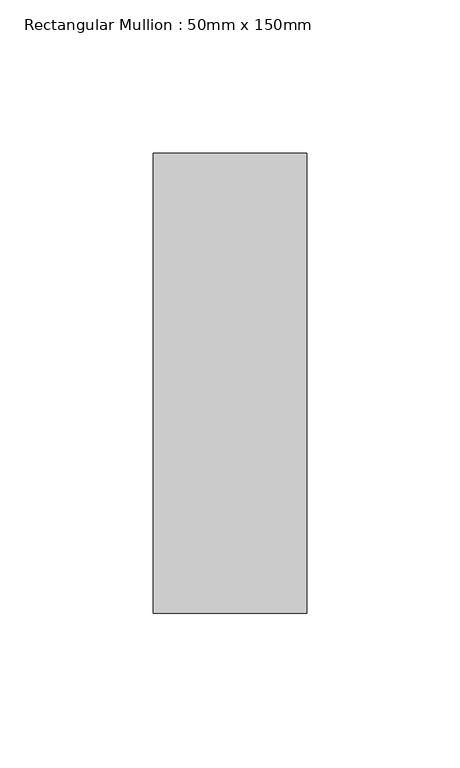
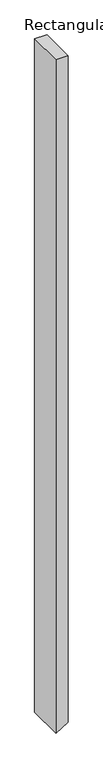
"""IFC4 building model written with IfcOpenShell, lengths in millimetres: member geometry, Rectangular Mullion : 50mm x 150mm."""

from ifc_helpers import new_model, si_unit, frame, origin, place, context, project, spatial, polyline, outline, extrude, source, transform, mapped, element, save


def rectangular_mullion_50mm_x_150mm_9fee62a8(model_context):
    return source(origin(), model_context, "Body", "SweptSolid", [
        extrude(outline(polyline([(0.0, 25.0), (0.0, -25.0), (-2919.7381952, -25.0), (-2890.8706818, 25.0), (0.0, 25.0)])), frame((0.0, -75.0, 0.0), z_axis=(0.0, 1.0, 0.0), x_axis=(0.0, 0.0, 1.0)), (0.0, 0.0, 1.0), 150.0),
    ])


if __name__ == "__main__":
    model = new_model("IFC4")
    model_context = context("Model", 3, world=origin())
    ifc_project = project(units=[si_unit("LENGTHUNIT", "METRE", prefix="MILLI")], contexts=[model_context])
    site = spatial("IfcSite", under=ifc_project)
    building = spatial("IfcBuilding", under=site)
    placement = place(None, origin())
    rectangular_mullion_50mm_x_150mm_shape = rectangular_mullion_50mm_x_150mm_9fee62a8(model_context)
    element("IfcMember", 1, ObjectType="Rectangular Mullion : 50mm x 150mm", at=placement, inside=building, context=model_context, shape_type="MappedRepresentation", body=[
        mapped(rectangular_mullion_50mm_x_150mm_shape, transform((0.0, 0.0, 0.0), x_axis=(1.0, 0.0, 0.0), y_axis=(0.0, 1.0, 0.0), z_axis=(0.0, 0.0, 1.0))),
    ])
    save(model, "model.ifc")
